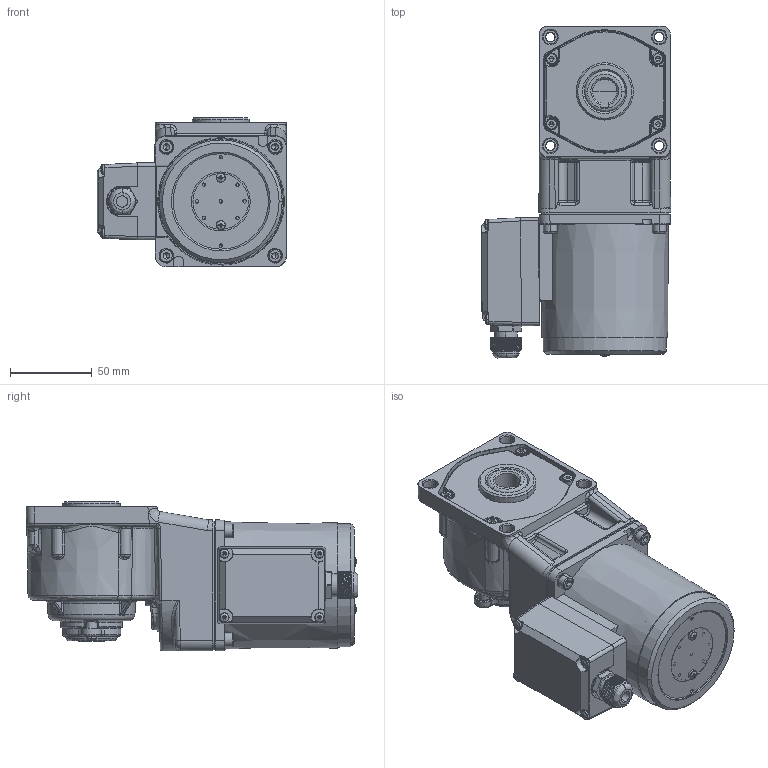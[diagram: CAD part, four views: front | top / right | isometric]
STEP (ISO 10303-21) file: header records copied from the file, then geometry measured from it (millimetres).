
FILE_DESCRIPTION (( 'STEP AP203' ), '1' );
FILE_NAME ('4RK25GN-CT(4GN3RC-180RC)ÐÂ.STEP', '2022-02-25T07:53:15', ( 'PC' ), ( 'Microsoft' ), 'SwSTEP 2.0', 'SolidWorks 2014', '' );
FILE_SCHEMA (( 'CONFIG_CONTROL_DESIGN' ));
Length unit declared in the file: millimetre
Products named in the file (14): M3^70TSJXHG(2)_80JXH; 80綴傷裔; cross recessed pan head screws gb_GB_CROSS_SCREWS_TYPE1 M3X6-6  H type-N; hexagon socket head cap screws gb_GB_FASTENER_SCREWS_HSHCS M4X12-N; M3_1; 80TSJXHJK_1; 80諾陑怀堤粣; zd-4gn1000rc-504-001-20211209（实心外形）; 4RK25GN-CT(4GN3RC-180RC)陔; TSJXH^70TSJXHG(2)_80JXH; M14SJQ^70TSJXHG(2)_80JXH; 80眻褒眊裔; 80ZNGB_1; M5X20-S^4ik25gn-c-4gn3-180rc_asm(2)_80RC
Assembly tree (24 placements, depth 2):
  4RK25GN-CT(4GN3RC-180RC)陔
    80綴傷裔
    zd-4gn1000rc-504-001-20211209（实心外形）
    cross recessed pan head screws gb_GB_CROSS_SCREWS_TYPE1 M3X6-6  H type-N  x2
    80眻褒眊裔
    80諾陑怀堤粣
    hexagon socket head cap screws gb_GB_FASTENER_SCREWS_HSHCS M4X12-N  x4
    M5X20-S^4ik25gn-c-4gn3-180rc_asm(2)_80RC  x4
    80ZNGB_1
    M3^70TSJXHG(2)_80JXH  x2
    80TSJXHJK_1
    TSJXH^70TSJXHG(2)_80JXH
    M14SJQ^70TSJXHG(2)_80JXH
    M3_1  x4
Bounding box: 115.74 x 202.79 x 91.5 mm (x, y, z)
Volume: 729123.2 mm3; surface area: 173010 mm2
Topology: 24 solids, 27 shells, 3301 faces, 7520 edges, 4258 vertices
Faces by surface type: cone 1259, cylinder 999, plane 525, bspline 444, torus 54, sphere 20
Entity records: 89427 total; most frequent: CARTESIAN_POINT 47280, ORIENTED_EDGE 9046, DIRECTION 7589, EDGE_CURVE 4523, AXIS2_PLACEMENT_3D 3003, VERTEX_POINT 2688, EDGE_LOOP 2043, ADVANCED_FACE 1935
